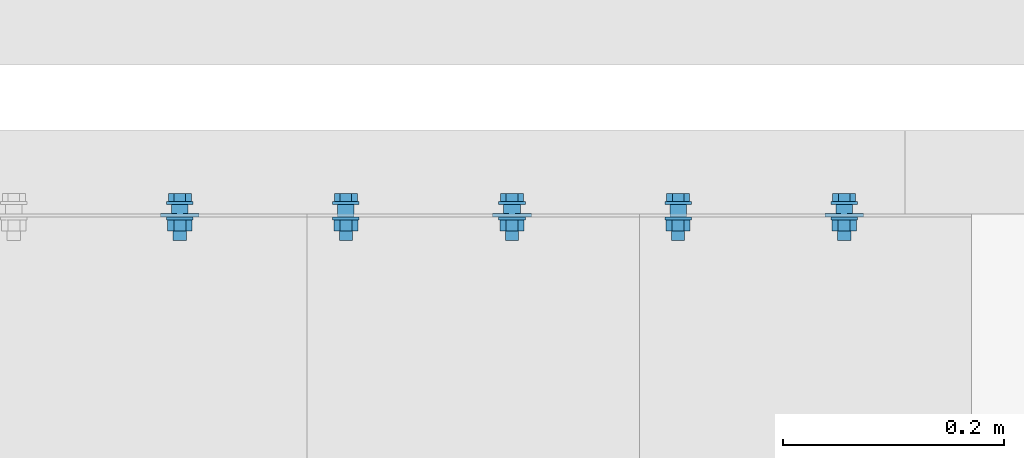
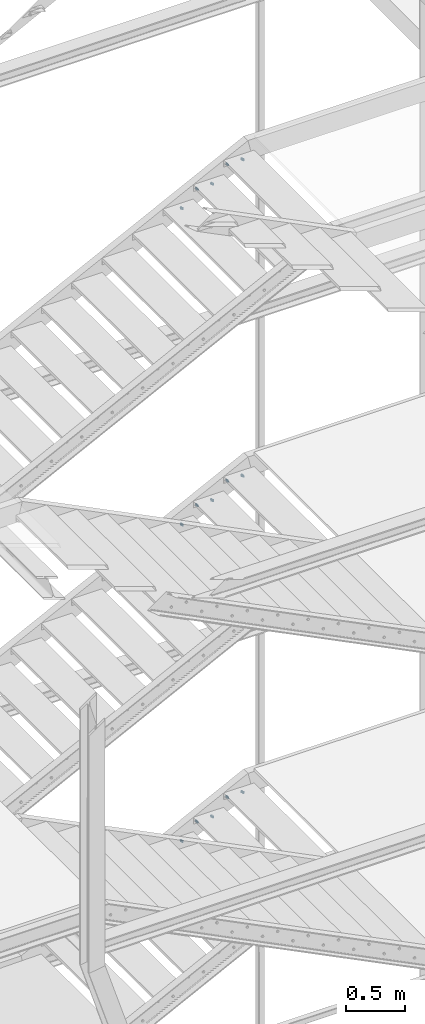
# One storey, part 114 of 132: 15 mechanical fasteners, 9 elements without a shape of their own.
"""IFC2X3 building model written with IfcOpenShell, lengths in millimetres."""

import ifcopenshell
import ifcopenshell.guid

model = None  # the IFC model being written
_history = None  # IfcOwnerHistory: only IFC2X3 demands one
_inside = {}  # id of a spatial element -> (the spatial element, [elements in it])
_under = {}  # id of a project, library or spatial element -> (it, [spatial elements below it])
_declared = {}  # id of a project -> (the project, [libraries it declares])
_typed = {}  # id of a type object -> (the type object, [elements of that type])
_made_of = {}  # id of a material, layer set ... -> (it, [elements and type objects made of it])


def new_model(schema):
    """Start an empty IFC model of exactly this schema.

    Asked for "IFC4X3", IfcOpenShell would pick the latest addendum, in which some entities
    have other attributes; the version numbers below select the first issue.
    IFC2X3 requires an IfcOwnerHistory on every rooted entity: one is made here for all.
    """
    global model, _history
    if schema == "IFC4X3":
        model = ifcopenshell.file(schema_version=(4, 3, 0, 0))
    else:
        model = ifcopenshell.file(schema=schema)
    _inside.clear()
    _under.clear()
    _declared.clear()
    _typed.clear()
    _made_of.clear()
    _history = None
    if model.schema == "IFC2X3":
        org = make("IfcOrganization", Name="unknown")
        user = make(
            "IfcPersonAndOrganization",
            ThePerson=make("IfcPerson", FamilyName="unknown"),
            TheOrganization=org,
        )
        app = make(
            "IfcApplication",
            ApplicationDeveloper=org,
            Version="unknown",
            ApplicationFullName="unknown",
            ApplicationIdentifier="unknown",
        )
        _history = make(
            "IfcOwnerHistory",
            OwningUser=user,
            OwningApplication=app,
            ChangeAction="ADDED",
            CreationDate=0,
        )
    return model


def make(cls, **values):
    """One entity of the class cls with the attributes given. An attribute that is None is left unset."""
    return model.create_entity(
        cls, **{name: value for name, value in values.items() if value is not None}
    )


def rooted(cls, **values):
    """An entity with a GlobalId (a new one), such as an element, a storey or a relation."""
    return make(cls, GlobalId=ifcopenshell.guid.new(), OwnerHistory=_history, **values)


def si_unit(unit_type, name, prefix=None):
    """IfcSIUnit, for example si_unit("LENGTHUNIT", "METRE", prefix="MILLI")."""
    return make("IfcSIUnit", UnitType=unit_type, Prefix=prefix, Name=name)


def assignment(units):
    """IfcUnitAssignment: the units of a project."""
    return None if units is None else make("IfcUnitAssignment", Units=units)


def point(xyz):
    """IfcCartesianPoint."""
    return None if xyz is None else make("IfcCartesianPoint", Coordinates=xyz)


def direction(xyz):
    """IfcDirection."""
    return None if xyz is None else make("IfcDirection", DirectionRatios=xyz)


def frame(location, z_axis=None, x_axis=None):
    """IfcAxis2Placement3D, a coordinate frame: its origin and axes. An axis left out is left unset."""
    return make(
        "IfcAxis2Placement3D",
        Location=point(location),
        Axis=direction(z_axis),
        RefDirection=direction(x_axis),
    )


def frame_2d(location, x_axis=None):
    """IfcAxis2Placement2D, a coordinate frame in the plane: its origin and x axis."""
    return make(
        "IfcAxis2Placement2D", Location=point(location), RefDirection=direction(x_axis)
    )


def origin_with_axes():
    """The frame at (0, 0, 0) with the z axis (0, 0, 1) and the x axis (1, 0, 0) written out."""
    return frame((0.0, 0.0, 0.0), z_axis=(0.0, 0.0, 1.0), x_axis=(1.0, 0.0, 0.0))


def origin_2d_with_axis():
    """The frame at (0, 0) in the plane with the x axis (1, 0) written out."""
    return frame_2d((0.0, 0.0), x_axis=(1.0, 0.0))


def place(relative_to, where):
    """IfcLocalPlacement: puts the frame where relative to a parent placement (None: the world)."""
    return make(
        "IfcLocalPlacement", PlacementRelTo=relative_to, RelativePlacement=where
    )


def context(
    kind, dimensions, precision=None, world=None, true_north=None, identifier=None
):
    """IfcGeometricRepresentationContext, for example the 3D "Model" context."""
    return make(
        "IfcGeometricRepresentationContext",
        ContextIdentifier=identifier,
        ContextType=kind,
        CoordinateSpaceDimension=dimensions,
        Precision=precision,
        WorldCoordinateSystem=world,
        TrueNorth=true_north,
    )


def subcontext(parent, identifier, kind, view, scale=None):
    """IfcGeometricRepresentationSubContext, for example "Body" below "Model"."""
    return make(
        "IfcGeometricRepresentationSubContext",
        ContextIdentifier=identifier,
        ContextType=kind,
        ParentContext=parent,
        TargetScale=scale,
        TargetView=view,
    )


def project(units=None, contexts=None):
    """IfcProject with its units and contexts."""
    return rooted(
        "IfcProject",
        Name="project",
        RepresentationContexts=contexts,
        UnitsInContext=assignment(units),
    )


def spatial(cls, under=None, at=None, **own):
    """A site, building, storey or space (cls), placed at a placement, below another one or the project."""
    s = rooted(cls, ObjectPlacement=at, **own)
    if under is not None:
        _under.setdefault(under.id(), (under, []))[1].append(s)
    return s


def polyline(points):
    """IfcPolyline through the points."""
    return make("IfcPolyline", Points=[point(p) for p in points])


def circle_curve(where, radius):
    """IfcCircle in the frame where."""
    return make("IfcCircle", Position=where, Radius=radius)


def parameter(value):
    """IfcParameterValue: where a trimmed curve begins or ends, as a parameter of its basis curve."""
    return model.create_entity("IfcParameterValue", value)


def trimmed(basis, trim1, trim2, sense, master):
    """IfcTrimmedCurve: the piece of a basis curve between two trims."""
    return make(
        "IfcTrimmedCurve",
        BasisCurve=basis,
        Trim1=trim1,
        Trim2=trim2,
        SenseAgreement=sense,
        MasterRepresentation=master,
    )


def segment(curve, same_sense, transition):
    """IfcCompositeCurveSegment."""
    return make(
        "IfcCompositeCurveSegment",
        Transition=transition,
        SameSense=same_sense,
        ParentCurve=curve,
    )


def composite_curve(segments, self_intersect=None):
    """IfcCompositeCurve: segments joined end to end."""
    return make("IfcCompositeCurve", Segments=segments, SelfIntersect=self_intersect)


def profile(cls, at=None, kind="AREA", **sizes):
    """A parametric profile (cls). Its sizes go by their IFC names, for example OverallWidth=200.0."""
    return make(cls, ProfileType=kind, Position=at, **sizes)


def circle(**sizes):
    """IfcCircleProfileDef."""
    return profile("IfcCircleProfileDef", **sizes)


def outline(outer, holes=None, kind="AREA"):
    """IfcArbitraryClosedProfileDef: a profile drawn as a closed curve; with holes, ...WithVoids."""
    if holes is None:
        return make("IfcArbitraryClosedProfileDef", ProfileType=kind, OuterCurve=outer)
    return make(
        "IfcArbitraryProfileDefWithVoids",
        ProfileType=kind,
        OuterCurve=outer,
        InnerCurves=holes,
    )


def extrude(swept, where, along, depth):
    """IfcExtrudedAreaSolid: the profile swept, set in the frame where, extruded along a direction by depth."""
    return make(
        "IfcExtrudedAreaSolid",
        SweptArea=swept,
        Position=where,
        ExtrudedDirection=direction(along),
        Depth=depth,
    )


def shape(context_of_items, identifier, shape_type, items):
    """IfcShapeRepresentation: the items that make up one representation, for example the "Body"."""
    return make(
        "IfcShapeRepresentation",
        ContextOfItems=context_of_items,
        RepresentationIdentifier=identifier,
        RepresentationType=shape_type,
        Items=items,
    )


def source(mapping_origin, context_of_items, identifier, shape_type, items):
    """IfcRepresentationMap: a shape defined once, which mapped items show again and again."""
    return make(
        "IfcRepresentationMap",
        MappingOrigin=mapping_origin,
        MappedRepresentation=shape(context_of_items, identifier, shape_type, items),
    )


def transform(
    local_origin,
    x_axis=None,
    y_axis=None,
    z_axis=None,
    scale=None,
    scale2=None,
    scale3=None,
    uniform=True,
):
    """IfcCartesianTransformationOperator3D, or its non-uniform kind. x_axis, y_axis, z_axis: its Axis1, 2, 3."""
    if uniform:
        return make(
            "IfcCartesianTransformationOperator3D",
            Axis1=direction(x_axis),
            Axis2=direction(y_axis),
            LocalOrigin=point(local_origin),
            Scale=scale,
            Axis3=direction(z_axis),
        )
    return make(
        "IfcCartesianTransformationOperator3DnonUniform",
        Axis1=direction(x_axis),
        Axis2=direction(y_axis),
        LocalOrigin=point(local_origin),
        Scale=scale,
        Axis3=direction(z_axis),
        Scale2=scale2,
        Scale3=scale3,
    )


def mapped(mapping_source, mapping_target):
    """IfcMappedItem: shows the shape of a source again, moved by a transform."""
    return make(
        "IfcMappedItem", MappingSource=mapping_source, MappingTarget=mapping_target
    )


def material(Name=None, Category=None):
    """IfcMaterial."""
    return make("IfcMaterial", Name=Name, Category=Category)


def made_of(thing, what):
    """Note that an element or type object is made of a material, layer set ...; save() writes the relation."""
    if what is not None:
        _made_of.setdefault(what.id(), (what, []))[1].append(thing)
    return thing


def type_object(cls, material=None, **own):
    """A type object (cls), such as IfcWallType, which elements share."""
    return made_of(rooted(cls, **own), material)


def element(
    cls,
    number,
    at=None,
    inside=None,
    cuts=None,
    type_object=None,
    material=None,
    context=None,
    identifier="Body",
    shape_type=None,
    held_by="IfcProductDefinitionShape",
    body=None,
    shapes=None,
    **own,
):
    """One element of the class cls, such as IfcWall. Its Tag is "e" and its number.

    at: its placement. inside: the storey or other place that contains it. cuts: it is an
    opening in that element (IfcRelVoidsElement). A single representation is given by context,
    identifier, shape_type and body (its items); several are given by shapes. held_by: the class
    of the entity that holds the representations. save() writes the other relations.
    """
    e = rooted(cls, Tag="e%d" % number, ObjectPlacement=at, **own)
    if body is not None:
        shapes = [shape(context, identifier, shape_type, body)]
    if shapes is not None:
        e.Representation = make(held_by, Representations=shapes)
    if inside is not None:
        _inside.setdefault(inside.id(), (inside, []))[1].append(e)
    if cuts is not None:
        rooted(
            "IfcRelVoidsElement", RelatingBuildingElement=cuts, RelatedOpeningElement=e
        )
    if type_object is not None:
        _typed.setdefault(type_object.id(), (type_object, []))[1].append(e)
    return made_of(e, material)


def aggregate(whole, parts):
    """IfcRelAggregates: a whole, such as a stair, and the parts it consists of."""
    return rooted("IfcRelAggregates", RelatingObject=whole, RelatedObjects=parts)


def save(model, path):
    """Write the relations noted so far, then the file.

    IfcRelAggregates (storeys below a building ...), IfcRelContainedInSpatialStructure (elements
    in a storey), IfcRelDefinesByType, IfcRelAssociatesMaterial and IfcRelDeclares: one each for
    every whole, place, type object, material and project.
    """
    for whole, parts in _under.values():
        aggregate(whole, parts)
    for where, things in _inside.values():
        rooted(
            "IfcRelContainedInSpatialStructure",
            RelatedElements=things,
            RelatingStructure=where,
        )
    for kind, things in _typed.values():
        rooted("IfcRelDefinesByType", RelatedObjects=things, RelatingType=kind)
    for what, things in _made_of.values():
        rooted("IfcRelAssociatesMaterial", RelatedObjects=things, RelatingMaterial=what)
    for by, libraries in _declared.values():
        rooted("IfcRelDeclares", RelatingContext=by, RelatedDefinitions=libraries)
    model.write(path)


model = new_model("IFC2X3")

# Units and contexts
model_context = context("Model", 3, precision=1e-05, world=origin_with_axes())
body_context = subcontext(model_context, "Body", "Model", "MODEL_VIEW")
ifc_project = project(units=[si_unit("LENGTHUNIT", "METRE", prefix="MILLI"), si_unit("AREAUNIT", "SQUARE_METRE"), si_unit("VOLUMEUNIT", "CUBIC_METRE"), si_unit("MASSUNIT", "GRAM", prefix="KILO"), si_unit("TIMEUNIT", "SECOND"), si_unit("PLANEANGLEUNIT", "RADIAN"), si_unit("SOLIDANGLEUNIT", "STERADIAN"), si_unit("THERMODYNAMICTEMPERATUREUNIT", "DEGREE_CELSIUS"), si_unit("LUMINOUSINTENSITYUNIT", "LUMEN")], contexts=[model_context])

# Site, building, storey
site_placement = place(None, origin_with_axes())
site = spatial("IfcSite", under=ifc_project, at=site_placement, Name="Budowa", CompositionType="ELEMENT")
building_placement = place(site_placement, origin_with_axes())
building = spatial("IfcBuilding", under=site, at=building_placement, Name="Undefined", CompositionType="ELEMENT")
storey_placement = place(building_placement, origin_with_axes())
storey = spatial("IfcBuildingStorey", under=building, at=storey_placement, Name="Undefined", CompositionType="ELEMENT", Elevation=0.0)

# Assembly, mechanical fastener
assembly_1_placement = place(storey_placement, origin_with_axes())
assembly_1 = element("IfcElementAssembly", 1, at=assembly_1_placement, inside=storey, Name="Steel Assembly", AssemblyPlace="NOTDEFINED", PredefinedType="RIGID_FRAME")
ifc_material = material(Name="Undefined")
discrete_accessory_type = type_object("IfcDiscreteAccessoryType", Name="Bolt assembly")
shared_shape_1 = source(origin_with_axes(), body_context, "Body", "SweptSolid", [
    extrude(circle(Radius=7.5, at=origin_2d_with_axis()), frame((0.0, -8.40000000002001, 0.0), z_axis=(0.0, 1.0, 0.0), x_axis=(1.0, 0.0, 0.0)), (0.0, 0.0, 1.0), 8.5),
    extrude(circle(Radius=7.5, at=origin_2d_with_axis()), frame((0.0, -0.1, 0.0), z_axis=(0.0, 1.0, 0.0), x_axis=(1.0, 0.0, 0.0)), (0.0, 0.0, 1.0), 3.1),
    extrude(outline(polyline([(10.39230484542, 0.0), (5.19615242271, 9.00000000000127), (-5.19615242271, 9.00000000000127), (-10.39230484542, 0.0), (-5.19615242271, -9.00000000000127), (5.19615242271, -9.00000000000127), (10.39230484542, 0.0)])), frame((0.0, -18.50000000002, 0.0), z_axis=(0.0, 1.0, 0.0), x_axis=(1.0, 0.0, 0.0)), (0.0, 0.0, 1.0), 7.5),
    extrude(circle(Radius=6.0, at=origin_2d_with_axis()), frame((0.0, -11.00000000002, 0.0), z_axis=(0.0, 1.0, 0.0), x_axis=(1.0, 0.0, 0.0)), (0.0, 0.0, 1.0), 35.0),
    extrude(circle(Radius=12.0, at=origin_2d_with_axis()), frame((0.0, -11.00000000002, 0.0), z_axis=(0.0, 1.0, 0.0), x_axis=(1.0, 0.0, 0.0)), (0.0, 0.0, 1.0), 2.5),
    extrude(circle(Radius=12.0, at=origin_2d_with_axis()), frame((0.0, 3.0, 0.0), z_axis=(0.0, 1.0, 0.0), x_axis=(1.0, 0.0, 0.0)), (0.0, 0.0, 1.0), 2.5),
    extrude(outline(polyline([(10.96965511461, 0.0), (5.484827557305, 9.50000000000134), (-5.484827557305, 9.50000000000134), (-10.96965511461, 0.0), (-5.484827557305, -9.50000000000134), (5.484827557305, -9.50000000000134), (10.96965511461, 0.0)])), frame((0.0, 5.5, 0.0), z_axis=(0.0, 1.0, 0.0), x_axis=(1.0, 0.0, 0.0)), (0.0, 0.0, 1.0), 10.0),
])
mechanical_fastener_1_placement = place(assembly_1_placement, frame((-1120.00000008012, 10925.0000000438, 10549.9999999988), z_axis=(0.0, 0.0, -1.0), x_axis=(1.0, 0.0, 0.0)))
mechanical_fastener_1 = element("IfcMechanicalFastener", 2, at=mechanical_fastener_1_placement, type_object=discrete_accessory_type, material=ifc_material, Name="Bolt assembly", NominalDiameter=12.0, NominalLength=35.0, context=body_context, shape_type="MappedRepresentation", body=[
    mapped(shared_shape_1, transform((35.0, 0.0, 25.0))),
])

assembly_2_placement = place(storey_placement, origin_with_axes())
assembly_2 = element("IfcElementAssembly", 3, at=assembly_2_placement, inside=storey, Name="Steel Assembly", AssemblyPlace="NOTDEFINED", PredefinedType="RIGID_FRAME")
mechanical_fastener_2_placement = place(assembly_2_placement, frame((-1420.00000008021, 10925.0000000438, 10399.9999999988), z_axis=(0.0, 0.0, -1.0), x_axis=(1.0, 0.0, 0.0)))
mechanical_fastener_2 = element("IfcMechanicalFastener", 4, at=mechanical_fastener_2_placement, type_object=discrete_accessory_type, material=ifc_material, Name="Bolt assembly", NominalDiameter=12.0, NominalLength=35.0, context=body_context, shape_type="MappedRepresentation", body=[
    mapped(shared_shape_1, transform((35.0, 0.0, 25.0))),
])

assembly_3_placement = place(storey_placement, origin_with_axes())
assembly_3 = element("IfcElementAssembly", 5, at=assembly_3_placement, inside=storey, Name="Steel Assembly", AssemblyPlace="NOTDEFINED", PredefinedType="RIGID_FRAME")
mechanical_fastener_3_placement = place(assembly_3_placement, frame((-1120.00000008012, 10925.0000000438, 7249.99999999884), z_axis=(0.0, 0.0, -1.0), x_axis=(1.0, 0.0, 0.0)))
mechanical_fastener_3 = element("IfcMechanicalFastener", 6, at=mechanical_fastener_3_placement, type_object=discrete_accessory_type, material=ifc_material, Name="Bolt assembly", NominalDiameter=12.0, NominalLength=35.0, context=body_context, shape_type="MappedRepresentation", body=[
    mapped(shared_shape_1, transform((35.0, 0.0, 25.0))),
])

assembly_4_placement = place(storey_placement, origin_with_axes())
assembly_4 = element("IfcElementAssembly", 7, at=assembly_4_placement, inside=storey, Name="Steel Assembly", AssemblyPlace="NOTDEFINED", PredefinedType="RIGID_FRAME")
mechanical_fastener_4_placement = place(assembly_4_placement, frame((-1420.00000008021, 10925.0000000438, 7099.99999999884), z_axis=(0.0, 0.0, -1.0), x_axis=(1.0, 0.0, 0.0)))
mechanical_fastener_4 = element("IfcMechanicalFastener", 8, at=mechanical_fastener_4_placement, type_object=discrete_accessory_type, material=ifc_material, Name="Bolt assembly", NominalDiameter=12.0, NominalLength=35.0, context=body_context, shape_type="MappedRepresentation", body=[
    mapped(shared_shape_1, transform((35.0, 0.0, 25.0))),
])

assembly_5_placement = place(storey_placement, origin_with_axes())
assembly_5 = element("IfcElementAssembly", 9, at=assembly_5_placement, inside=storey, Name="Steel Assembly", AssemblyPlace="NOTDEFINED", PredefinedType="RIGID_FRAME")
mechanical_fastener_5_placement = place(assembly_5_placement, frame((-1120.00000008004, 10925.0000000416, 3949.99999999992), z_axis=(0.0, 0.0, -1.0), x_axis=(1.0, 0.0, 0.0)))
mechanical_fastener_5 = element("IfcMechanicalFastener", 10, at=mechanical_fastener_5_placement, type_object=discrete_accessory_type, material=ifc_material, Name="Bolt assembly", NominalDiameter=12.0, NominalLength=35.0, context=body_context, shape_type="MappedRepresentation", body=[
    mapped(shared_shape_1, transform((35.0, 0.0, 25.0))),
])

assembly_6_placement = place(storey_placement, origin_with_axes())
assembly_6 = element("IfcElementAssembly", 11, at=assembly_6_placement, inside=storey, Name="Steel Assembly", AssemblyPlace="NOTDEFINED", PredefinedType="RIGID_FRAME")
mechanical_fastener_6_placement = place(assembly_6_placement, frame((-1420.00000008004, 10925.000000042, 3799.99999999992), z_axis=(0.0, 0.0, -1.0), x_axis=(1.0, 0.0, 0.0)))
mechanical_fastener_6 = element("IfcMechanicalFastener", 12, at=mechanical_fastener_6_placement, type_object=discrete_accessory_type, material=ifc_material, Name="Bolt assembly", NominalDiameter=12.0, NominalLength=35.0, context=body_context, shape_type="MappedRepresentation", body=[
    mapped(shared_shape_1, transform((35.0, 0.0, 25.0))),
])

# Mechanical fastener
shared_shape_2 = source(origin_with_axes(), body_context, "Body", "SweptSolid", [
    extrude(circle(Radius=7.5, at=origin_2d_with_axis()), frame((0.0, -8.40000000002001, 0.0), z_axis=(0.0, 1.0, 0.0), x_axis=(1.0, 0.0, 0.0)), (0.0, 0.0, 1.0), 8.5),
    extrude(outline(composite_curve([segment(polyline([(-10.0, 7.5), (10.0, 7.5)]), True, "CONTINUOUS"), segment(trimmed(circle_curve(frame_2d((10.0, 0.0), x_axis=(0.0, 1.0)), 7.5), [parameter(0.0)], [parameter(3.14159265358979)], False, "PARAMETER"), True, "CONTINUOUS"), segment(polyline([(10.0, -7.5), (-10.0, -7.5)]), True, "CONTINUOUS"), segment(trimmed(circle_curve(frame_2d((-10.0, 0.0), x_axis=(0.0, -1.0)), 7.5), [parameter(0.0)], [parameter(3.14159265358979)], False, "PARAMETER"), True, "DISCONTINUOUS")], self_intersect=False)), frame((0.0, -0.1, 0.0), z_axis=(0.0, 1.0, 0.0), x_axis=(1.0, 0.0, 0.0)), (0.0, 0.0, 1.0), 3.1),
    extrude(outline(polyline([(10.39230484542, 0.0), (5.19615242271, 9.00000000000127), (-5.19615242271, 9.00000000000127), (-10.39230484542, 0.0), (-5.19615242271, -9.00000000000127), (5.19615242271, -9.00000000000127), (10.39230484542, 0.0)])), frame((0.0, -18.50000000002, 0.0), z_axis=(0.0, 1.0, 0.0), x_axis=(1.0, 0.0, 0.0)), (0.0, 0.0, 1.0), 7.5),
    extrude(circle(Radius=6.0, at=origin_2d_with_axis()), frame((0.0, -11.00000000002, 0.0), z_axis=(0.0, 1.0, 0.0), x_axis=(1.0, 0.0, 0.0)), (0.0, 0.0, 1.0), 35.0),
    extrude(circle(Radius=12.0, at=origin_2d_with_axis()), frame((0.0, -11.00000000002, 0.0), z_axis=(0.0, 1.0, 0.0), x_axis=(1.0, 0.0, 0.0)), (0.0, 0.0, 1.0), 2.5),
    extrude(circle(Radius=12.0, at=origin_2d_with_axis()), frame((0.0, 3.0, 0.0), z_axis=(0.0, 1.0, 0.0), x_axis=(1.0, 0.0, 0.0)), (0.0, 0.0, 1.0), 2.5),
    extrude(outline(polyline([(10.96965511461, 0.0), (5.484827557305, 9.50000000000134), (-5.484827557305, 9.50000000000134), (-10.96965511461, 0.0), (-5.484827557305, -9.50000000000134), (5.484827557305, -9.50000000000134), (10.96965511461, 0.0)])), frame((0.0, 5.5, 0.0), z_axis=(0.0, 1.0, 0.0), x_axis=(1.0, 0.0, 0.0)), (0.0, 0.0, 1.0), 10.0),
])
mechanical_fastener_7_placement = place(assembly_1_placement, frame((-1120.00000008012, 10925.0000000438, 10549.9999999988), z_axis=(0.0, 0.0, -1.0), x_axis=(1.0, 0.0, 0.0)))
mechanical_fastener_7 = element("IfcMechanicalFastener", 13, at=mechanical_fastener_7_placement, type_object=discrete_accessory_type, material=ifc_material, Name="Bolt assembly", NominalDiameter=12.0, NominalLength=35.0, context=body_context, shape_type="MappedRepresentation", body=[
    mapped(shared_shape_2, transform((185.0, 0.0, 25.0))),
])

aggregate(assembly_1, [mechanical_fastener_7, mechanical_fastener_1])

shared_shape_3 = source(origin_with_axes(), body_context, "Body", "SweptSolid", [
    extrude(circle(Radius=7.5, at=origin_2d_with_axis()), frame((0.0, -8.40000000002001, 0.0), z_axis=(0.0, 1.0, 0.0), x_axis=(1.0, 0.0, 0.0)), (0.0, 0.0, 1.0), 8.5),
    extrude(outline(composite_curve([segment(polyline([(-10.0, 7.5), (10.0, 7.5)]), True, "CONTINUOUS"), segment(trimmed(circle_curve(frame_2d((10.0, 0.0), x_axis=(0.0, 1.0)), 7.5), [parameter(0.0)], [parameter(3.14159265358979)], False, "PARAMETER"), True, "CONTINUOUS"), segment(polyline([(10.0, -7.5), (-10.0, -7.5)]), True, "CONTINUOUS"), segment(trimmed(circle_curve(frame_2d((-10.0, 0.0), x_axis=(0.0, -1.0)), 7.5), [parameter(0.0)], [parameter(3.14159265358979)], False, "PARAMETER"), True, "DISCONTINUOUS")], self_intersect=False)), frame((0.0, -0.1, 0.0), z_axis=(0.0, 1.0, 0.0), x_axis=(1.0, 0.0, 0.0)), (0.0, 0.0, 1.0), 3.1),
    extrude(outline(polyline([(10.39230484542, 0.0), (5.19615242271, 9.00000000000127), (-5.19615242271, 9.00000000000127), (-10.39230484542, 0.0), (-5.19615242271, -9.00000000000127), (5.19615242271, -9.00000000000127), (10.39230484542, 0.0)])), frame((0.0, -18.50000000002, 0.0), z_axis=(0.0, 1.0, 0.0), x_axis=(1.0, 0.0, 0.0)), (0.0, 0.0, 1.0), 7.5),
    extrude(circle(Radius=6.0, at=origin_2d_with_axis()), frame((0.0, -11.00000000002, 0.0), z_axis=(0.0, 1.0, 0.0), x_axis=(1.0, 0.0, 0.0)), (0.0, 0.0, 1.0), 35.0),
    extrude(circle(Radius=12.0, at=origin_2d_with_axis()), frame((0.0, -11.00000000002, 0.0), z_axis=(0.0, 1.0, 0.0), x_axis=(1.0, 0.0, 0.0)), (0.0, 0.0, 1.0), 2.5),
    extrude(circle(Radius=12.0, at=origin_2d_with_axis()), frame((0.0, 3.0, 0.0), z_axis=(0.0, 1.0, 0.0), x_axis=(1.0, 0.0, 0.0)), (0.0, 0.0, 1.0), 2.5),
    extrude(outline(polyline([(10.96965511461, 0.0), (5.484827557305, 9.50000000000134), (-5.484827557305, 9.50000000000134), (-10.96965511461, 0.0), (-5.484827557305, -9.50000000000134), (5.484827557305, -9.50000000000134), (10.96965511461, 0.0)])), frame((0.0, 5.5, 0.0), z_axis=(0.0, 1.0, 0.0), x_axis=(1.0, 0.0, 0.0)), (0.0, 0.0, 1.0), 10.0),
])
mechanical_fastener_8_placement = place(assembly_2_placement, frame((-1420.00000008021, 10925.0000000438, 10399.9999999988), z_axis=(0.0, 0.0, -1.0), x_axis=(1.0, 0.0, 0.0)))
mechanical_fastener_8 = element("IfcMechanicalFastener", 14, at=mechanical_fastener_8_placement, type_object=discrete_accessory_type, material=ifc_material, Name="Bolt assembly", NominalDiameter=12.0, NominalLength=35.0, context=body_context, shape_type="MappedRepresentation", body=[
    mapped(shared_shape_3, transform((185.0, 0.0, 25.0))),
])

aggregate(assembly_2, [mechanical_fastener_8, mechanical_fastener_2])

# Assembly, mechanical fastener
assembly_7_placement = place(storey_placement, origin_with_axes())
assembly_7 = element("IfcElementAssembly", 15, at=assembly_7_placement, inside=storey, Name="Steel Assembly", AssemblyPlace="NOTDEFINED", PredefinedType="RIGID_FRAME")
shared_shape_4 = source(origin_with_axes(), body_context, "Body", "SweptSolid", [
    extrude(circle(Radius=7.5, at=origin_2d_with_axis()), frame((0.0, -8.40000000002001, 0.0), z_axis=(0.0, 1.0, 0.0), x_axis=(1.0, 0.0, 0.0)), (0.0, 0.0, 1.0), 8.5),
    extrude(outline(composite_curve([segment(polyline([(-10.0, 7.5), (10.0, 7.5)]), True, "CONTINUOUS"), segment(trimmed(circle_curve(frame_2d((10.0, 0.0), x_axis=(0.0, 1.0)), 7.5), [parameter(0.0)], [parameter(3.14159265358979)], False, "PARAMETER"), True, "CONTINUOUS"), segment(polyline([(10.0, -7.5), (-10.0, -7.5)]), True, "CONTINUOUS"), segment(trimmed(circle_curve(frame_2d((-10.0, 0.0), x_axis=(0.0, -1.0)), 7.5), [parameter(0.0)], [parameter(3.14159265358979)], False, "PARAMETER"), True, "DISCONTINUOUS")], self_intersect=False)), frame((0.0, -0.1, 0.0), z_axis=(0.0, 1.0, 0.0), x_axis=(1.0, 0.0, 0.0)), (0.0, 0.0, 1.0), 3.1),
    extrude(outline(polyline([(10.39230484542, 0.0), (5.19615242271, 9.00000000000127), (-5.19615242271, 9.00000000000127), (-10.39230484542, 0.0), (-5.19615242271, -9.00000000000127), (5.19615242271, -9.00000000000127), (10.39230484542, 0.0)])), frame((0.0, -18.50000000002, 0.0), z_axis=(0.0, 1.0, 0.0), x_axis=(1.0, 0.0, 0.0)), (0.0, 0.0, 1.0), 7.5),
    extrude(circle(Radius=6.0, at=origin_2d_with_axis()), frame((0.0, -11.00000000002, 0.0), z_axis=(0.0, 1.0, 0.0), x_axis=(1.0, 0.0, 0.0)), (0.0, 0.0, 1.0), 35.0),
    extrude(circle(Radius=12.0, at=origin_2d_with_axis()), frame((0.0, -11.00000000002, 0.0), z_axis=(0.0, 1.0, 0.0), x_axis=(1.0, 0.0, 0.0)), (0.0, 0.0, 1.0), 2.5),
    extrude(circle(Radius=12.0, at=origin_2d_with_axis()), frame((0.0, 3.0, 0.0), z_axis=(0.0, 1.0, 0.0), x_axis=(1.0, 0.0, 0.0)), (0.0, 0.0, 1.0), 2.5),
    extrude(outline(polyline([(10.96965511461, 0.0), (5.484827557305, 9.50000000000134), (-5.484827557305, 9.50000000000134), (-10.96965511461, 0.0), (-5.484827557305, -9.50000000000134), (5.484827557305, -9.50000000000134), (10.96965511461, 0.0)])), frame((0.0, 5.5, 0.0), z_axis=(0.0, 1.0, 0.0), x_axis=(1.0, 0.0, 0.0)), (0.0, 0.0, 1.0), 10.0),
])
mechanical_fastener_9_placement = place(assembly_7_placement, frame((-1720.0000000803, 10925.0000000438, 10249.9999999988), z_axis=(0.0, 0.0, -1.0), x_axis=(1.0, 0.0, 0.0)))
mechanical_fastener_9 = element("IfcMechanicalFastener", 16, at=mechanical_fastener_9_placement, type_object=discrete_accessory_type, material=ifc_material, Name="Bolt assembly", NominalDiameter=12.0, NominalLength=35.0, context=body_context, shape_type="MappedRepresentation", body=[
    mapped(shared_shape_4, transform((185.0, 0.0, 25.0))),
])
aggregate(assembly_7, [mechanical_fastener_9])

# Mechanical fastener
shared_shape_5 = source(origin_with_axes(), body_context, "Body", "SweptSolid", [
    extrude(circle(Radius=7.5, at=origin_2d_with_axis()), frame((0.0, -8.40000000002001, 0.0), z_axis=(0.0, 1.0, 0.0), x_axis=(1.0, 0.0, 0.0)), (0.0, 0.0, 1.0), 8.5),
    extrude(outline(composite_curve([segment(polyline([(-10.0, 7.5), (10.0, 7.5)]), True, "CONTINUOUS"), segment(trimmed(circle_curve(frame_2d((10.0, 0.0), x_axis=(0.0, 1.0)), 7.5), [parameter(0.0)], [parameter(3.14159265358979)], False, "PARAMETER"), True, "CONTINUOUS"), segment(polyline([(10.0, -7.5), (-10.0, -7.5)]), True, "CONTINUOUS"), segment(trimmed(circle_curve(frame_2d((-10.0, 0.0), x_axis=(0.0, -1.0)), 7.5), [parameter(0.0)], [parameter(3.14159265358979)], False, "PARAMETER"), True, "DISCONTINUOUS")], self_intersect=False)), frame((0.0, -0.1, 0.0), z_axis=(0.0, 1.0, 0.0), x_axis=(1.0, 0.0, 0.0)), (0.0, 0.0, 1.0), 3.1),
    extrude(outline(polyline([(10.39230484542, 0.0), (5.19615242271, 9.00000000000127), (-5.19615242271, 9.00000000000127), (-10.39230484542, 0.0), (-5.19615242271, -9.00000000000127), (5.19615242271, -9.00000000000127), (10.39230484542, 0.0)])), frame((0.0, -18.50000000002, 0.0), z_axis=(0.0, 1.0, 0.0), x_axis=(1.0, 0.0, 0.0)), (0.0, 0.0, 1.0), 7.5),
    extrude(circle(Radius=6.0, at=origin_2d_with_axis()), frame((0.0, -11.00000000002, 0.0), z_axis=(0.0, 1.0, 0.0), x_axis=(1.0, 0.0, 0.0)), (0.0, 0.0, 1.0), 35.0),
    extrude(circle(Radius=12.0, at=origin_2d_with_axis()), frame((0.0, -11.00000000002, 0.0), z_axis=(0.0, 1.0, 0.0), x_axis=(1.0, 0.0, 0.0)), (0.0, 0.0, 1.0), 2.5),
    extrude(circle(Radius=12.0, at=origin_2d_with_axis()), frame((0.0, 3.0, 0.0), z_axis=(0.0, 1.0, 0.0), x_axis=(1.0, 0.0, 0.0)), (0.0, 0.0, 1.0), 2.5),
    extrude(outline(polyline([(10.96965511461, 0.0), (5.484827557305, 9.50000000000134), (-5.484827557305, 9.50000000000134), (-10.96965511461, 0.0), (-5.484827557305, -9.50000000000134), (5.484827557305, -9.50000000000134), (10.96965511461, 0.0)])), frame((0.0, 5.5, 0.0), z_axis=(0.0, 1.0, 0.0), x_axis=(1.0, 0.0, 0.0)), (0.0, 0.0, 1.0), 10.0),
])
mechanical_fastener_10_placement = place(assembly_3_placement, frame((-1120.00000008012, 10925.0000000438, 7249.99999999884), z_axis=(0.0, 0.0, -1.0), x_axis=(1.0, 0.0, 0.0)))
mechanical_fastener_10 = element("IfcMechanicalFastener", 17, at=mechanical_fastener_10_placement, type_object=discrete_accessory_type, material=ifc_material, Name="Bolt assembly", NominalDiameter=12.0, NominalLength=35.0, context=body_context, shape_type="MappedRepresentation", body=[
    mapped(shared_shape_5, transform((185.0, 0.0, 25.0))),
])

aggregate(assembly_3, [mechanical_fastener_10, mechanical_fastener_3])

shared_shape_6 = source(origin_with_axes(), body_context, "Body", "SweptSolid", [
    extrude(circle(Radius=7.5, at=origin_2d_with_axis()), frame((0.0, -8.40000000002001, 0.0), z_axis=(0.0, 1.0, 0.0), x_axis=(1.0, 0.0, 0.0)), (0.0, 0.0, 1.0), 8.5),
    extrude(outline(composite_curve([segment(polyline([(-10.0, 7.5), (10.0, 7.5)]), True, "CONTINUOUS"), segment(trimmed(circle_curve(frame_2d((10.0, 0.0), x_axis=(0.0, 1.0)), 7.5), [parameter(0.0)], [parameter(3.14159265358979)], False, "PARAMETER"), True, "CONTINUOUS"), segment(polyline([(10.0, -7.5), (-10.0, -7.5)]), True, "CONTINUOUS"), segment(trimmed(circle_curve(frame_2d((-10.0, 0.0), x_axis=(0.0, -1.0)), 7.5), [parameter(0.0)], [parameter(3.14159265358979)], False, "PARAMETER"), True, "DISCONTINUOUS")], self_intersect=False)), frame((0.0, -0.1, 0.0), z_axis=(0.0, 1.0, 0.0), x_axis=(1.0, 0.0, 0.0)), (0.0, 0.0, 1.0), 3.1),
    extrude(outline(polyline([(10.39230484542, 0.0), (5.19615242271, 9.00000000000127), (-5.19615242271, 9.00000000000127), (-10.39230484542, 0.0), (-5.19615242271, -9.00000000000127), (5.19615242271, -9.00000000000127), (10.39230484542, 0.0)])), frame((0.0, -18.50000000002, 0.0), z_axis=(0.0, 1.0, 0.0), x_axis=(1.0, 0.0, 0.0)), (0.0, 0.0, 1.0), 7.5),
    extrude(circle(Radius=6.0, at=origin_2d_with_axis()), frame((0.0, -11.00000000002, 0.0), z_axis=(0.0, 1.0, 0.0), x_axis=(1.0, 0.0, 0.0)), (0.0, 0.0, 1.0), 35.0),
    extrude(circle(Radius=12.0, at=origin_2d_with_axis()), frame((0.0, -11.00000000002, 0.0), z_axis=(0.0, 1.0, 0.0), x_axis=(1.0, 0.0, 0.0)), (0.0, 0.0, 1.0), 2.5),
    extrude(circle(Radius=12.0, at=origin_2d_with_axis()), frame((0.0, 3.0, 0.0), z_axis=(0.0, 1.0, 0.0), x_axis=(1.0, 0.0, 0.0)), (0.0, 0.0, 1.0), 2.5),
    extrude(outline(polyline([(10.96965511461, 0.0), (5.484827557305, 9.50000000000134), (-5.484827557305, 9.50000000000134), (-10.96965511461, 0.0), (-5.484827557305, -9.50000000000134), (5.484827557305, -9.50000000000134), (10.96965511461, 0.0)])), frame((0.0, 5.5, 0.0), z_axis=(0.0, 1.0, 0.0), x_axis=(1.0, 0.0, 0.0)), (0.0, 0.0, 1.0), 10.0),
])
mechanical_fastener_11_placement = place(assembly_4_placement, frame((-1420.00000008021, 10925.0000000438, 7099.99999999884), z_axis=(0.0, 0.0, -1.0), x_axis=(1.0, 0.0, 0.0)))
mechanical_fastener_11 = element("IfcMechanicalFastener", 18, at=mechanical_fastener_11_placement, type_object=discrete_accessory_type, material=ifc_material, Name="Bolt assembly", NominalDiameter=12.0, NominalLength=35.0, context=body_context, shape_type="MappedRepresentation", body=[
    mapped(shared_shape_6, transform((185.0, 0.0, 25.0))),
])

aggregate(assembly_4, [mechanical_fastener_11, mechanical_fastener_4])

# Assembly, mechanical fastener
assembly_8_placement = place(storey_placement, origin_with_axes())
assembly_8 = element("IfcElementAssembly", 19, at=assembly_8_placement, inside=storey, Name="Steel Assembly", AssemblyPlace="NOTDEFINED", PredefinedType="RIGID_FRAME")
shared_shape_7 = source(origin_with_axes(), body_context, "Body", "SweptSolid", [
    extrude(circle(Radius=7.5, at=origin_2d_with_axis()), frame((0.0, -8.40000000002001, 0.0), z_axis=(0.0, 1.0, 0.0), x_axis=(1.0, 0.0, 0.0)), (0.0, 0.0, 1.0), 8.5),
    extrude(outline(composite_curve([segment(polyline([(-10.0, 7.5), (10.0, 7.5)]), True, "CONTINUOUS"), segment(trimmed(circle_curve(frame_2d((10.0, 0.0), x_axis=(0.0, 1.0)), 7.5), [parameter(0.0)], [parameter(3.14159265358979)], False, "PARAMETER"), True, "CONTINUOUS"), segment(polyline([(10.0, -7.5), (-10.0, -7.5)]), True, "CONTINUOUS"), segment(trimmed(circle_curve(frame_2d((-10.0, 0.0), x_axis=(0.0, -1.0)), 7.5), [parameter(0.0)], [parameter(3.14159265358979)], False, "PARAMETER"), True, "DISCONTINUOUS")], self_intersect=False)), frame((0.0, -0.1, 0.0), z_axis=(0.0, 1.0, 0.0), x_axis=(1.0, 0.0, 0.0)), (0.0, 0.0, 1.0), 3.1),
    extrude(outline(polyline([(10.39230484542, 0.0), (5.19615242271, 9.00000000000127), (-5.19615242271, 9.00000000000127), (-10.39230484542, 0.0), (-5.19615242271, -9.00000000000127), (5.19615242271, -9.00000000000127), (10.39230484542, 0.0)])), frame((0.0, -18.50000000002, 0.0), z_axis=(0.0, 1.0, 0.0), x_axis=(1.0, 0.0, 0.0)), (0.0, 0.0, 1.0), 7.5),
    extrude(circle(Radius=6.0, at=origin_2d_with_axis()), frame((0.0, -11.00000000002, 0.0), z_axis=(0.0, 1.0, 0.0), x_axis=(1.0, 0.0, 0.0)), (0.0, 0.0, 1.0), 35.0),
    extrude(circle(Radius=12.0, at=origin_2d_with_axis()), frame((0.0, -11.00000000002, 0.0), z_axis=(0.0, 1.0, 0.0), x_axis=(1.0, 0.0, 0.0)), (0.0, 0.0, 1.0), 2.5),
    extrude(circle(Radius=12.0, at=origin_2d_with_axis()), frame((0.0, 3.0, 0.0), z_axis=(0.0, 1.0, 0.0), x_axis=(1.0, 0.0, 0.0)), (0.0, 0.0, 1.0), 2.5),
    extrude(outline(polyline([(10.96965511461, 0.0), (5.484827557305, 9.50000000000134), (-5.484827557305, 9.50000000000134), (-10.96965511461, 0.0), (-5.484827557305, -9.50000000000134), (5.484827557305, -9.50000000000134), (10.96965511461, 0.0)])), frame((0.0, 5.5, 0.0), z_axis=(0.0, 1.0, 0.0), x_axis=(1.0, 0.0, 0.0)), (0.0, 0.0, 1.0), 10.0),
])
mechanical_fastener_12_placement = place(assembly_8_placement, frame((-1720.00000008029, 10925.0000000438, 6949.99999999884), z_axis=(0.0, 0.0, -1.0), x_axis=(1.0, 0.0, 0.0)))
mechanical_fastener_12 = element("IfcMechanicalFastener", 20, at=mechanical_fastener_12_placement, type_object=discrete_accessory_type, material=ifc_material, Name="Bolt assembly", NominalDiameter=12.0, NominalLength=35.0, context=body_context, shape_type="MappedRepresentation", body=[
    mapped(shared_shape_7, transform((185.0, 0.0, 25.0))),
])
aggregate(assembly_8, [mechanical_fastener_12])

# Mechanical fastener
shared_shape_8 = source(origin_with_axes(), body_context, "Body", "SweptSolid", [
    extrude(circle(Radius=7.5, at=origin_2d_with_axis()), frame((0.0, -8.40000000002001, 0.0), z_axis=(0.0, 1.0, 0.0), x_axis=(1.0, 0.0, 0.0)), (0.0, 0.0, 1.0), 8.5),
    extrude(outline(composite_curve([segment(polyline([(-10.0, 7.5), (10.0, 7.5)]), True, "CONTINUOUS"), segment(trimmed(circle_curve(frame_2d((10.0, 0.0), x_axis=(0.0, 1.0)), 7.5), [parameter(0.0)], [parameter(3.14159265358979)], False, "PARAMETER"), True, "CONTINUOUS"), segment(polyline([(10.0, -7.5), (-10.0, -7.5)]), True, "CONTINUOUS"), segment(trimmed(circle_curve(frame_2d((-10.0, 0.0), x_axis=(0.0, -1.0)), 7.5), [parameter(0.0)], [parameter(3.14159265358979)], False, "PARAMETER"), True, "DISCONTINUOUS")], self_intersect=False)), frame((0.0, -0.1, 0.0), z_axis=(0.0, 1.0, 0.0), x_axis=(1.0, 0.0, 0.0)), (0.0, 0.0, 1.0), 3.1),
    extrude(outline(polyline([(10.39230484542, 0.0), (5.19615242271, 9.00000000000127), (-5.19615242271, 9.00000000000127), (-10.39230484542, 0.0), (-5.19615242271, -9.00000000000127), (5.19615242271, -9.00000000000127), (10.39230484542, 0.0)])), frame((0.0, -18.50000000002, 0.0), z_axis=(0.0, 1.0, 0.0), x_axis=(1.0, 0.0, 0.0)), (0.0, 0.0, 1.0), 7.5),
    extrude(circle(Radius=6.0, at=origin_2d_with_axis()), frame((0.0, -11.00000000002, 0.0), z_axis=(0.0, 1.0, 0.0), x_axis=(1.0, 0.0, 0.0)), (0.0, 0.0, 1.0), 35.0),
    extrude(circle(Radius=12.0, at=origin_2d_with_axis()), frame((0.0, -11.00000000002, 0.0), z_axis=(0.0, 1.0, 0.0), x_axis=(1.0, 0.0, 0.0)), (0.0, 0.0, 1.0), 2.5),
    extrude(circle(Radius=12.0, at=origin_2d_with_axis()), frame((0.0, 3.0, 0.0), z_axis=(0.0, 1.0, 0.0), x_axis=(1.0, 0.0, 0.0)), (0.0, 0.0, 1.0), 2.5),
    extrude(outline(polyline([(10.96965511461, 0.0), (5.484827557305, 9.50000000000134), (-5.484827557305, 9.50000000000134), (-10.96965511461, 0.0), (-5.484827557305, -9.50000000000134), (5.484827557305, -9.50000000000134), (10.96965511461, 0.0)])), frame((0.0, 5.5, 0.0), z_axis=(0.0, 1.0, 0.0), x_axis=(1.0, 0.0, 0.0)), (0.0, 0.0, 1.0), 10.0),
])
mechanical_fastener_13_placement = place(assembly_5_placement, frame((-1120.00000008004, 10925.0000000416, 3949.99999999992), z_axis=(0.0, 0.0, -1.0), x_axis=(1.0, 0.0, 0.0)))
mechanical_fastener_13 = element("IfcMechanicalFastener", 21, at=mechanical_fastener_13_placement, type_object=discrete_accessory_type, material=ifc_material, Name="Bolt assembly", NominalDiameter=12.0, NominalLength=35.0, context=body_context, shape_type="MappedRepresentation", body=[
    mapped(shared_shape_8, transform((185.0, 0.0, 25.0))),
])

aggregate(assembly_5, [mechanical_fastener_13, mechanical_fastener_5])

shared_shape_9 = source(origin_with_axes(), body_context, "Body", "SweptSolid", [
    extrude(circle(Radius=7.5, at=origin_2d_with_axis()), frame((0.0, -8.40000000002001, 0.0), z_axis=(0.0, 1.0, 0.0), x_axis=(1.0, 0.0, 0.0)), (0.0, 0.0, 1.0), 8.5),
    extrude(outline(composite_curve([segment(polyline([(-10.0, 7.5), (10.0, 7.5)]), True, "CONTINUOUS"), segment(trimmed(circle_curve(frame_2d((10.0, 0.0), x_axis=(0.0, 1.0)), 7.5), [parameter(0.0)], [parameter(3.14159265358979)], False, "PARAMETER"), True, "CONTINUOUS"), segment(polyline([(10.0, -7.5), (-10.0, -7.5)]), True, "CONTINUOUS"), segment(trimmed(circle_curve(frame_2d((-10.0, 0.0), x_axis=(0.0, -1.0)), 7.5), [parameter(0.0)], [parameter(3.14159265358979)], False, "PARAMETER"), True, "DISCONTINUOUS")], self_intersect=False)), frame((0.0, -0.1, 0.0), z_axis=(0.0, 1.0, 0.0), x_axis=(1.0, 0.0, 0.0)), (0.0, 0.0, 1.0), 3.1),
    extrude(outline(polyline([(10.39230484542, 0.0), (5.19615242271, 9.00000000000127), (-5.19615242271, 9.00000000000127), (-10.39230484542, 0.0), (-5.19615242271, -9.00000000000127), (5.19615242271, -9.00000000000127), (10.39230484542, 0.0)])), frame((0.0, -18.50000000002, 0.0), z_axis=(0.0, 1.0, 0.0), x_axis=(1.0, 0.0, 0.0)), (0.0, 0.0, 1.0), 7.5),
    extrude(circle(Radius=6.0, at=origin_2d_with_axis()), frame((0.0, -11.00000000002, 0.0), z_axis=(0.0, 1.0, 0.0), x_axis=(1.0, 0.0, 0.0)), (0.0, 0.0, 1.0), 35.0),
    extrude(circle(Radius=12.0, at=origin_2d_with_axis()), frame((0.0, -11.00000000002, 0.0), z_axis=(0.0, 1.0, 0.0), x_axis=(1.0, 0.0, 0.0)), (0.0, 0.0, 1.0), 2.5),
    extrude(circle(Radius=12.0, at=origin_2d_with_axis()), frame((0.0, 3.0, 0.0), z_axis=(0.0, 1.0, 0.0), x_axis=(1.0, 0.0, 0.0)), (0.0, 0.0, 1.0), 2.5),
    extrude(outline(polyline([(10.96965511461, 0.0), (5.484827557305, 9.50000000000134), (-5.484827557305, 9.50000000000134), (-10.96965511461, 0.0), (-5.484827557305, -9.50000000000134), (5.484827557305, -9.50000000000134), (10.96965511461, 0.0)])), frame((0.0, 5.5, 0.0), z_axis=(0.0, 1.0, 0.0), x_axis=(1.0, 0.0, 0.0)), (0.0, 0.0, 1.0), 10.0),
])
mechanical_fastener_14_placement = place(assembly_6_placement, frame((-1420.00000008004, 10925.000000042, 3799.99999999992), z_axis=(0.0, 0.0, -1.0), x_axis=(1.0, 0.0, 0.0)))
mechanical_fastener_14 = element("IfcMechanicalFastener", 22, at=mechanical_fastener_14_placement, type_object=discrete_accessory_type, material=ifc_material, Name="Bolt assembly", NominalDiameter=12.0, NominalLength=35.0, context=body_context, shape_type="MappedRepresentation", body=[
    mapped(shared_shape_9, transform((185.0, 0.0, 25.0))),
])

aggregate(assembly_6, [mechanical_fastener_14, mechanical_fastener_6])

# Assembly, mechanical fastener
assembly_9_placement = place(storey_placement, origin_with_axes())
assembly_9 = element("IfcElementAssembly", 23, at=assembly_9_placement, inside=storey, Name="Steel Assembly", AssemblyPlace="NOTDEFINED", PredefinedType="RIGID_FRAME")
shared_shape_10 = source(origin_with_axes(), body_context, "Body", "SweptSolid", [
    extrude(circle(Radius=7.5, at=origin_2d_with_axis()), frame((0.0, -8.40000000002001, 0.0), z_axis=(0.0, 1.0, 0.0), x_axis=(1.0, 0.0, 0.0)), (0.0, 0.0, 1.0), 8.5),
    extrude(outline(composite_curve([segment(polyline([(-10.0, 7.5), (10.0, 7.5)]), True, "CONTINUOUS"), segment(trimmed(circle_curve(frame_2d((10.0, 0.0), x_axis=(0.0, 1.0)), 7.5), [parameter(0.0)], [parameter(3.14159265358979)], False, "PARAMETER"), True, "CONTINUOUS"), segment(polyline([(10.0, -7.5), (-10.0, -7.5)]), True, "CONTINUOUS"), segment(trimmed(circle_curve(frame_2d((-10.0, 0.0), x_axis=(0.0, -1.0)), 7.5), [parameter(0.0)], [parameter(3.14159265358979)], False, "PARAMETER"), True, "DISCONTINUOUS")], self_intersect=False)), frame((0.0, -0.1, 0.0), z_axis=(0.0, 1.0, 0.0), x_axis=(1.0, 0.0, 0.0)), (0.0, 0.0, 1.0), 3.1),
    extrude(outline(polyline([(10.39230484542, 0.0), (5.19615242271, 9.00000000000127), (-5.19615242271, 9.00000000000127), (-10.39230484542, 0.0), (-5.19615242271, -9.00000000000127), (5.19615242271, -9.00000000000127), (10.39230484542, 0.0)])), frame((0.0, -18.50000000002, 0.0), z_axis=(0.0, 1.0, 0.0), x_axis=(1.0, 0.0, 0.0)), (0.0, 0.0, 1.0), 7.5),
    extrude(circle(Radius=6.0, at=origin_2d_with_axis()), frame((0.0, -11.00000000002, 0.0), z_axis=(0.0, 1.0, 0.0), x_axis=(1.0, 0.0, 0.0)), (0.0, 0.0, 1.0), 35.0),
    extrude(circle(Radius=12.0, at=origin_2d_with_axis()), frame((0.0, -11.00000000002, 0.0), z_axis=(0.0, 1.0, 0.0), x_axis=(1.0, 0.0, 0.0)), (0.0, 0.0, 1.0), 2.5),
    extrude(circle(Radius=12.0, at=origin_2d_with_axis()), frame((0.0, 3.0, 0.0), z_axis=(0.0, 1.0, 0.0), x_axis=(1.0, 0.0, 0.0)), (0.0, 0.0, 1.0), 2.5),
    extrude(outline(polyline([(10.96965511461, 0.0), (5.484827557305, 9.50000000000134), (-5.484827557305, 9.50000000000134), (-10.96965511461, 0.0), (-5.484827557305, -9.50000000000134), (5.484827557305, -9.50000000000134), (10.96965511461, 0.0)])), frame((0.0, 5.5, 0.0), z_axis=(0.0, 1.0, 0.0), x_axis=(1.0, 0.0, 0.0)), (0.0, 0.0, 1.0), 10.0),
])
mechanical_fastener_15_placement = place(assembly_9_placement, frame((-1720.00000008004, 10925.0000000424, 3649.99999999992), z_axis=(0.0, 0.0, -1.0), x_axis=(1.0, 0.0, 0.0)))
mechanical_fastener_15 = element("IfcMechanicalFastener", 24, at=mechanical_fastener_15_placement, type_object=discrete_accessory_type, material=ifc_material, Name="Bolt assembly", NominalDiameter=12.0, NominalLength=35.0, context=body_context, shape_type="MappedRepresentation", body=[
    mapped(shared_shape_10, transform((185.0, 0.0, 25.0))),
])
aggregate(assembly_9, [mechanical_fastener_15])

save(model, "model.ifc")
